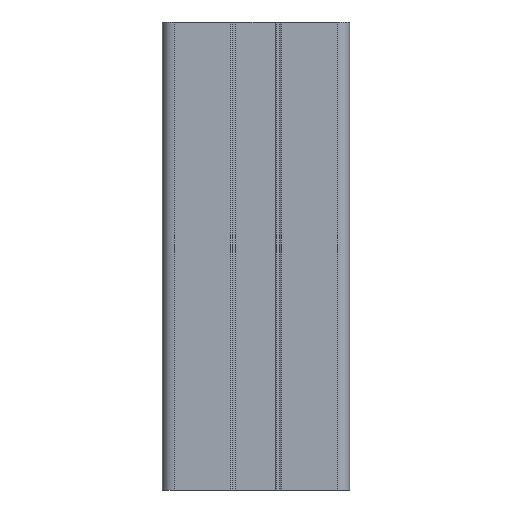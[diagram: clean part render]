
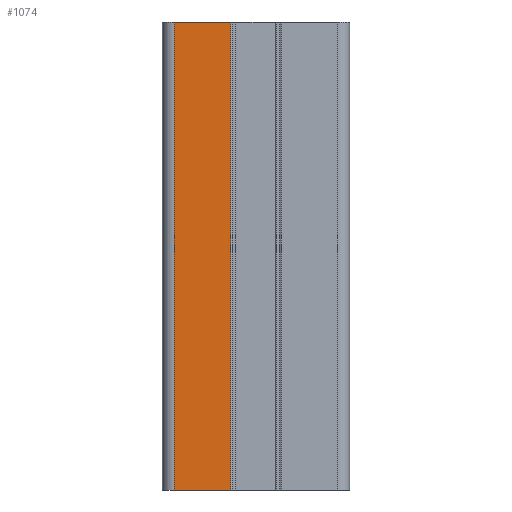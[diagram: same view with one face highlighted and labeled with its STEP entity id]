
A CAD part, left-side view. The second image highlights one B-rep face of the part: STEP entity #1074.
In plain terms, the highlighted planar face has unit normal (-1, 0, 0).
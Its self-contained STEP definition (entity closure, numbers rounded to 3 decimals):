
#1016=CARTESIAN_POINT('',(591.269,250.708,100.0));
#1017=VERTEX_POINT('',#1016);
#1025=CARTESIAN_POINT('',(591.269,250.708,0.0));
#1026=VERTEX_POINT('',#1025);
#1027=CARTESIAN_POINT('',(591.269,250.708,0.0));
#1028=DIRECTION('',(0.0,0.0,1.0));
#1029=VECTOR('',#1028,100.0);
#1030=LINE('',#1027,#1029);
#1031=EDGE_CURVE('',#1026,#1017,#1030,.T.);
#1044=CARTESIAN_POINT('',(591.269,250.708,0.0));
#1045=DIRECTION('',(-1.0,0.0,0.0));
#1046=DIRECTION('',(0.0,0.0,1.0));
#1047=AXIS2_PLACEMENT_3D('',#1044,#1045,#1046);
#1048=PLANE('',#1047);
#1049=CARTESIAN_POINT('',(591.269,262.808,100.0));
#1050=VERTEX_POINT('',#1049);
#1051=CARTESIAN_POINT('',(591.269,250.708,100.0));
#1052=DIRECTION('',(0.0,1.0,0.0));
#1053=VECTOR('',#1052,12.1);
#1054=LINE('',#1051,#1053);
#1055=EDGE_CURVE('',#1017,#1050,#1054,.T.);
#1056=ORIENTED_EDGE('',*,*,#1055,.T.);
#1057=CARTESIAN_POINT('',(591.269,262.808,0.0));
#1058=VERTEX_POINT('',#1057);
#1059=CARTESIAN_POINT('',(591.269,262.808,0.0));
#1060=DIRECTION('',(0.0,0.0,1.0));
#1061=VECTOR('',#1060,100.0);
#1062=LINE('',#1059,#1061);
#1063=EDGE_CURVE('',#1058,#1050,#1062,.T.);
#1064=ORIENTED_EDGE('',*,*,#1063,.F.);
#1065=CARTESIAN_POINT('',(591.269,262.808,0.0));
#1066=DIRECTION('',(0.0,-1.0,0.0));
#1067=VECTOR('',#1066,12.1);
#1068=LINE('',#1065,#1067);
#1069=EDGE_CURVE('',#1058,#1026,#1068,.T.);
#1070=ORIENTED_EDGE('',*,*,#1069,.T.);
#1071=ORIENTED_EDGE('',*,*,#1031,.T.);
#1072=EDGE_LOOP('',(#1056,#1064,#1070,#1071));
#1073=FACE_OUTER_BOUND('',#1072,.T.);
#1074=ADVANCED_FACE('',(#1073),#1048,.T.);
